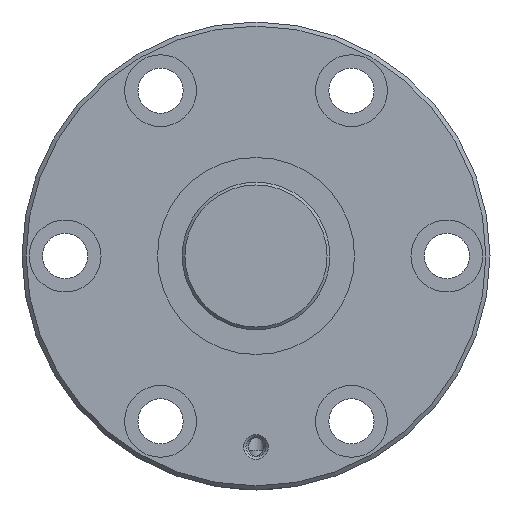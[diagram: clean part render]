
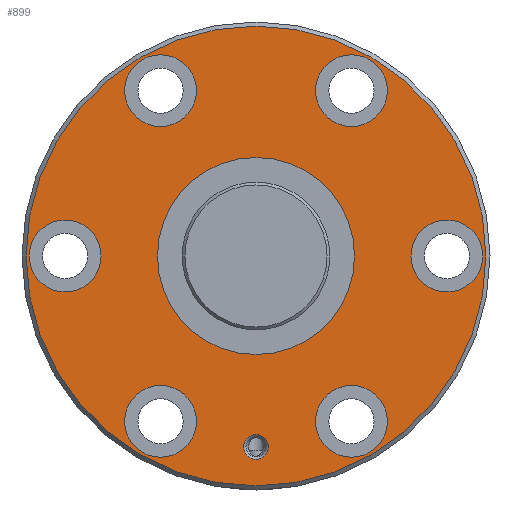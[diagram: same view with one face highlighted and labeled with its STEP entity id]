
A CAD part, left-side view. The second image highlights one B-rep face of the part: STEP entity #899.
In plain terms, the highlighted planar face has unit normal (-1, 0, 0).
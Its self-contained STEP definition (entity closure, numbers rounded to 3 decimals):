
#147=ORIENTED_EDGE('',*,*,#340,.T.);
#148=ORIENTED_EDGE('',*,*,#341,.T.);
#149=ORIENTED_EDGE('',*,*,#342,.T.);
#150=ORIENTED_EDGE('',*,*,#343,.T.);
#151=ORIENTED_EDGE('',*,*,#344,.T.);
#152=ORIENTED_EDGE('',*,*,#345,.T.);
#153=ORIENTED_EDGE('',*,*,#346,.T.);
#154=ORIENTED_EDGE('',*,*,#347,.T.);
#155=ORIENTED_EDGE('',*,*,#339,.F.);
#339=EDGE_CURVE('',#439,#439,#522,.T.);
#340=EDGE_CURVE('',#440,#440,#523,.T.);
#341=EDGE_CURVE('',#441,#441,#524,.F.);
#342=EDGE_CURVE('',#442,#442,#525,.T.);
#343=EDGE_CURVE('',#443,#443,#526,.T.);
#344=EDGE_CURVE('',#444,#444,#527,.T.);
#345=EDGE_CURVE('',#445,#445,#528,.T.);
#346=EDGE_CURVE('',#446,#446,#529,.T.);
#347=EDGE_CURVE('',#447,#447,#530,.T.);
#439=VERTEX_POINT('',#1508);
#440=VERTEX_POINT('',#1511);
#441=VERTEX_POINT('',#1513);
#442=VERTEX_POINT('',#1515);
#443=VERTEX_POINT('',#1517);
#444=VERTEX_POINT('',#1519);
#445=VERTEX_POINT('',#1521);
#446=VERTEX_POINT('',#1523);
#447=VERTEX_POINT('',#1525);
#522=CIRCLE('',#1005,56.);
#523=CIRCLE('',#1007,24.);
#524=CIRCLE('',#1008,8.75);
#525=CIRCLE('',#1009,3.);
#526=CIRCLE('',#1010,8.75);
#527=CIRCLE('',#1011,8.75);
#528=CIRCLE('',#1012,8.75);
#529=CIRCLE('',#1013,8.75);
#530=CIRCLE('',#1014,8.75);
#602=EDGE_LOOP('',(#147));
#603=EDGE_LOOP('',(#148));
#604=EDGE_LOOP('',(#149));
#605=EDGE_LOOP('',(#150));
#606=EDGE_LOOP('',(#151));
#607=EDGE_LOOP('',(#152));
#608=EDGE_LOOP('',(#153));
#609=EDGE_LOOP('',(#154));
#610=EDGE_LOOP('',(#155));
#742=FACE_BOUND('',#602,.T.);
#743=FACE_BOUND('',#603,.T.);
#744=FACE_BOUND('',#604,.T.);
#745=FACE_BOUND('',#605,.T.);
#746=FACE_BOUND('',#606,.T.);
#747=FACE_BOUND('',#607,.T.);
#748=FACE_BOUND('',#608,.T.);
#749=FACE_BOUND('',#609,.T.);
#750=FACE_BOUND('',#610,.T.);
#864=PLANE('',#1006);
#899=ADVANCED_FACE('',(#742,#743,#744,#745,#746,#747,#748,#749,#750),#864,
 .T.);
#1005=AXIS2_PLACEMENT_3D('',#1507,#1171,#1172);
#1006=AXIS2_PLACEMENT_3D('',#1509,#1173,#1174);
#1007=AXIS2_PLACEMENT_3D('',#1510,#1175,#1176);
#1008=AXIS2_PLACEMENT_3D('',#1512,#1177,#1178);
#1009=AXIS2_PLACEMENT_3D('',#1514,#1179,#1180);
#1010=AXIS2_PLACEMENT_3D('',#1516,#1181,#1182);
#1011=AXIS2_PLACEMENT_3D('',#1518,#1183,#1184);
#1012=AXIS2_PLACEMENT_3D('',#1520,#1185,#1186);
#1013=AXIS2_PLACEMENT_3D('',#1522,#1187,#1188);
#1014=AXIS2_PLACEMENT_3D('',#1524,#1189,#1190);
#1171=DIRECTION('',(1.,0.,0.));
#1172=DIRECTION('',(0.,0.,-1.));
#1173=DIRECTION('',(-1.,0.,0.));
#1174=DIRECTION('',(0.,0.,1.));
#1175=DIRECTION('',(1.,0.,0.));
#1176=DIRECTION('',(0.,0.,-1.));
#1177=DIRECTION('',(-1.,0.,0.));
#1178=DIRECTION('',(0.,0.,1.));
#1179=DIRECTION('',(1.,0.,0.));
#1180=DIRECTION('',(0.,0.,-1.));
#1181=DIRECTION('',(1.,0.,0.));
#1182=DIRECTION('',(0.,0.,-1.));
#1183=DIRECTION('',(1.,0.,0.));
#1184=DIRECTION('',(0.,0.,-1.));
#1185=DIRECTION('',(1.,0.,0.));
#1186=DIRECTION('',(0.,0.,-1.));
#1187=DIRECTION('',(1.,0.,0.));
#1188=DIRECTION('',(0.,0.,-1.));
#1189=DIRECTION('',(1.,0.,0.));
#1190=DIRECTION('',(0.,0.,-1.));
#1507=CARTESIAN_POINT('',(0.,0.,0.));
#1508=CARTESIAN_POINT('',(0.,0.,-56.));
#1509=CARTESIAN_POINT('',(0.,56.,0.));
#1510=CARTESIAN_POINT('',(0.,0.,0.));
#1511=CARTESIAN_POINT('',(0.,0.,-24.));
#1512=CARTESIAN_POINT('',(0.,46.5,0.));
#1513=CARTESIAN_POINT('',(0.,46.5,8.75));
#1514=CARTESIAN_POINT('',(0.,0.,-46.5));
#1515=CARTESIAN_POINT('',(0.,0.,-49.5));
#1516=CARTESIAN_POINT('',(0.,-46.5,0.));
#1517=CARTESIAN_POINT('',(0.,-46.5,-8.75));
#1518=CARTESIAN_POINT('',(0.,23.25,40.27));
#1519=CARTESIAN_POINT('',(0.,23.25,31.52));
#1520=CARTESIAN_POINT('',(0.,-23.25,-40.27));
#1521=CARTESIAN_POINT('',(0.,-23.25,-49.02));
#1522=CARTESIAN_POINT('',(0.,-23.25,40.27));
#1523=CARTESIAN_POINT('',(0.,-23.25,31.52));
#1524=CARTESIAN_POINT('',(0.,23.25,-40.27));
#1525=CARTESIAN_POINT('',(0.,23.25,-49.02));
